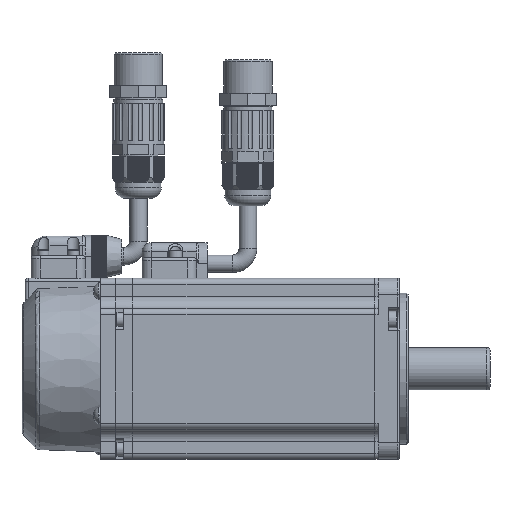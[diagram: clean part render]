
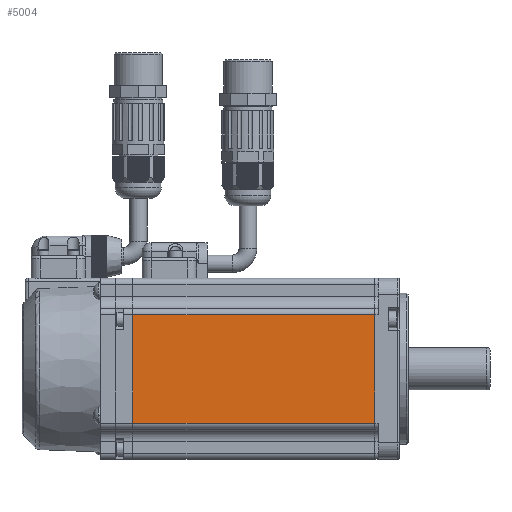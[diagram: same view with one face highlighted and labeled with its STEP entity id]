
A CAD part, left-side view. The second image highlights one B-rep face of the part: STEP entity #5004.
In plain terms, the highlighted planar face has unit normal (-1, 0, 0).
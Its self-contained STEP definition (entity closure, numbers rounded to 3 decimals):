
#5004=ADVANCED_FACE('',(#9446),#7711,.F.);
#7711=PLANE('',#47427);
#9446=FACE_OUTER_BOUND('',#11860,.T.);
#11860=EDGE_LOOP('',(#14931,#14932,#14933,#14934));
#14931=ORIENTED_EDGE('',*,*,#33026,.T.);
#14932=ORIENTED_EDGE('',*,*,#33027,.F.);
#14933=ORIENTED_EDGE('',*,*,#33028,.T.);
#14934=ORIENTED_EDGE('',*,*,#33011,.F.);
#28553=VERTEX_POINT('',#64181);
#28554=VERTEX_POINT('',#64183);
#28567=VERTEX_POINT('',#64212);
#28568=VERTEX_POINT('',#64214);
#33011=EDGE_CURVE('',#28553,#28554,#39822,.T.);
#33026=EDGE_CURVE('',#28553,#28567,#39829,.T.);
#33027=EDGE_CURVE('',#28568,#28567,#39830,.T.);
#33028=EDGE_CURVE('',#28568,#28554,#39831,.T.);
#39822=LINE('',#64182,#43619);
#39829=LINE('',#64211,#43626);
#39830=LINE('',#64213,#43627);
#39831=LINE('',#64215,#43628);
#43619=VECTOR('',#51750,1.);
#43626=VECTOR('',#51775,1.);
#43627=VECTOR('',#51776,1.);
#43628=VECTOR('',#51777,1.);
#47427=AXIS2_PLACEMENT_3D('',#64216,#51778,#51779);
#51750=DIRECTION('',(0.,0.,1.));
#51775=DIRECTION('',(0.,-1.,0.));
#51776=DIRECTION('',(0.,0.,-1.));
#51777=DIRECTION('',(0.,1.,0.));
#51778=DIRECTION('',(1.,0.,0.));
#51779=DIRECTION('',(0.,-1.,0.));
#64181=CARTESIAN_POINT('',(-115.303,175.291,-3.479));
#64182=CARTESIAN_POINT('',(-115.303,175.291,14.521));
#64183=CARTESIAN_POINT('',(-115.303,175.291,32.521));
#64211=CARTESIAN_POINT('',(-115.303,144.19,-3.479));
#64212=CARTESIAN_POINT('',(-115.303,95.19,-3.479));
#64213=CARTESIAN_POINT('',(-115.303,95.19,14.521));
#64214=CARTESIAN_POINT('',(-115.303,95.19,32.521));
#64215=CARTESIAN_POINT('',(-115.303,144.19,32.521));
#64216=CARTESIAN_POINT('',(-115.303,144.19,-15.479));
